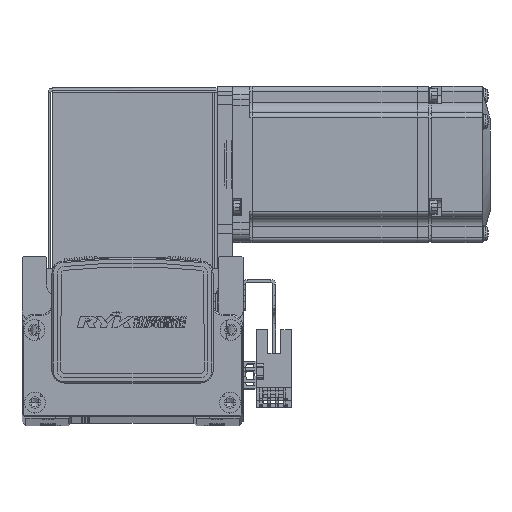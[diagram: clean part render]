
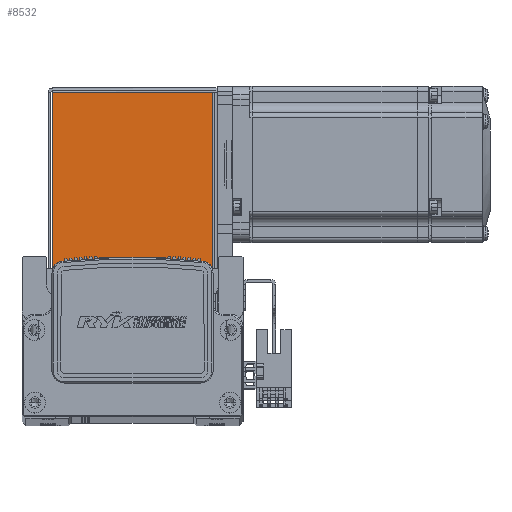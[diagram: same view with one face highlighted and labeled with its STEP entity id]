
A CAD part, top view. The second image highlights one B-rep face of the part: STEP entity #8532.
In plain terms, the highlighted planar face has unit normal (0, 0, 1) as drawn and (0, 0, -1) by its records, which use the part's own axes.
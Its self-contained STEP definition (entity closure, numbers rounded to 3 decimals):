
#1176 = ORIENTED_EDGE ( 'NONE', *, *, #20159, .T. ) ;
#1199 = ORIENTED_EDGE ( 'NONE', *, *, #20269, .T. ) ;
#1207 = ORIENTED_EDGE ( 'NONE', *, *, #20225, .T. ) ;
#1247 = ORIENTED_EDGE ( 'NONE', *, *, #20253, .F. ) ;
#3656 = CARTESIAN_POINT ( 'NONE',  ( 30.763, 68.5, -35. ) ) ;
#3657 = DIRECTION ( 'NONE',  ( 0., -1., 0. ) ) ;
#3838 = CARTESIAN_POINT ( 'NONE',  ( 0., 68.5, -35. ) ) ;
#3839 = DIRECTION ( 'NONE',  ( 1., 0., 0. ) ) ;
#3925 = CARTESIAN_POINT ( 'NONE',  ( 32.5, 0.737, -35. ) ) ;
#3928 = DIRECTION ( 'NONE',  ( 1., 0., 0. ) ) ;
#3954 = DIRECTION ( 'NONE',  ( 0., 1., 0. ) ) ;
#3967 = CARTESIAN_POINT ( 'NONE',  ( -30.793, 0., -35. ) ) ;
#8532 = ADVANCED_FACE ( 'NONE', ( #68897 ), #16985, .F. ) ;
#16938 = CARTESIAN_POINT ( 'NONE',  ( 0., 0., -35. ) ) ;
#16940 = DIRECTION ( 'NONE',  ( 0., 0., 1. ) ) ;
#16983 = DIRECTION ( 'NONE',  ( 0., -1., 0. ) ) ;
#16985 = PLANE ( 'NONE',  #72641 ) ;
#20159 = EDGE_CURVE ( 'NONE', #76933, #76785, #52123, .T. ) ;
#20225 = EDGE_CURVE ( 'NONE', #76953, #76933, #52219, .T. ) ;
#20253 = EDGE_CURVE ( 'NONE', #76887, #76785, #52375, .T. ) ;
#20269 = EDGE_CURVE ( 'NONE', #76887, #76953, #52507, .T. ) ;
#34100 = CARTESIAN_POINT ( 'NONE',  ( 30.763, 0.737, -35. ) ) ;
#34201 = CARTESIAN_POINT ( 'NONE',  ( -30.793, 0.737, -35. ) ) ;
#34220 = CARTESIAN_POINT ( 'NONE',  ( 30.763, 68.5, -35. ) ) ;
#34251 = CARTESIAN_POINT ( 'NONE',  ( -30.793, 68.5, -35. ) ) ;
#52090 = VECTOR ( 'NONE', #3657, 1000. ) ;
#52123 = LINE ( 'NONE', #3656, #52090 ) ;
#52203 = VECTOR ( 'NONE', #3839, 1000. ) ;
#52219 = LINE ( 'NONE', #3838, #52203 ) ;
#52375 = LINE ( 'NONE', #3925, #52393 ) ;
#52393 = VECTOR ( 'NONE', #3928, 1000. ) ;
#52437 = VECTOR ( 'NONE', #3954, 1000. ) ;
#52507 = LINE ( 'NONE', #3967, #52437 ) ;
#56182 = EDGE_LOOP ( 'NONE', ( #1176, #1247, #1199, #1207 ) ) ;
#68897 = FACE_OUTER_BOUND ( 'NONE', #56182, .T. ) ;
#72641 = AXIS2_PLACEMENT_3D ( 'NONE', #16938, #16940, #16983 ) ;
#76785 = VERTEX_POINT ( 'NONE', #34100 ) ;
#76887 = VERTEX_POINT ( 'NONE', #34201 ) ;
#76933 = VERTEX_POINT ( 'NONE', #34220 ) ;
#76953 = VERTEX_POINT ( 'NONE', #34251 ) ;
